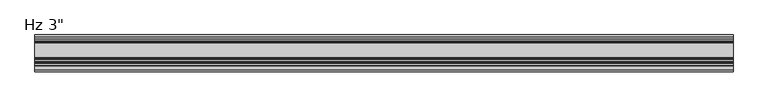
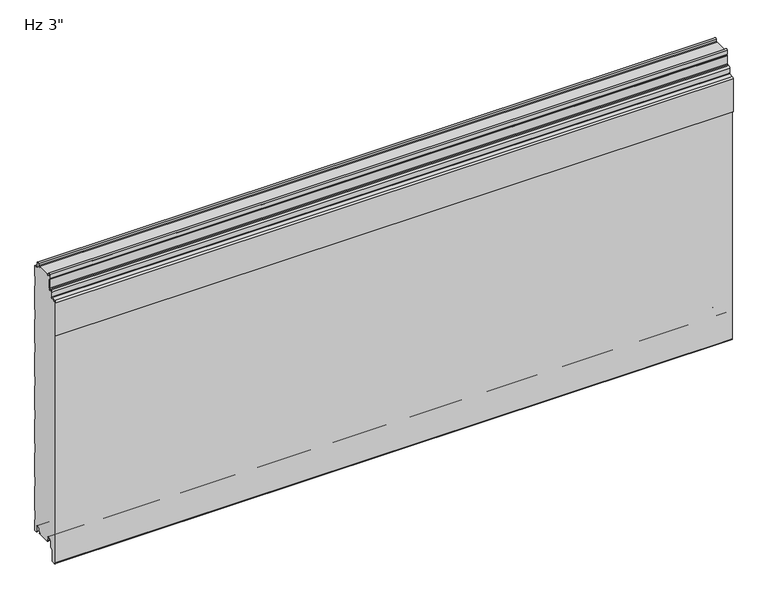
"""IFC4 building model written with IfcOpenShell, lengths in millimetres: plate geometry."""

from ifc_helpers import new_model, si_unit, frame, origin, place, context, project, spatial, polyline, circle_curve, source, transform, mapped, element, save
from ifc_brep_helpers import plane_surface, cylinder_surface, revolved_surface, advanced_brep


def plate_a6e66233(model_context):
    return source(origin(), model_context, "Body", "AdvancedBrep", [
        advanced_brep(
        [(730.0, -55.1008679, 583.4464086), (730.0, -55.1008679, 602.1916086), (730.0, -56.6248679, 602.1916086), (730.0, -56.6248679, 583.4464086), (730.0, -58.1488679, 581.9224086), (730.0, -61.2476679, 581.9224086), (730.0, -64.7020679, 578.4680086), (730.0, -64.7020679, 567.2554512), (730.0, -65.3976552, 566.4963509), (730.0, -74.9416507, 565.3015233), (730.0, -77.724, 562.2651218), (730.0, -77.7360323, 486.6978086), (730.0, -76.2, 486.6978086), (730.0, -76.2, 562.2651218), (730.0, -74.8088254, 563.7833225), (730.0, -65.2648299, 564.9781501), (730.0, -63.1780679, 567.2554512), (730.0, -63.1780679, 578.4680086), (730.0, -61.2476679, 580.3984086), (730.0, -58.1488679, 580.3984086), (-730.0, -55.1008679, 583.4464086), (-730.0, -58.1488679, 580.3984086), (-730.0, -61.2476679, 580.3984086), (-730.0, -63.1780679, 578.4680086), (-730.0, -63.1780679, 567.2554512), (-730.0, -65.2648299, 564.9781501), (-730.0, -74.8088254, 563.7833225), (-730.0, -76.2, 562.2651218), (-730.0, -76.2, 486.6978086), (-730.0, -77.7360323, 486.6978086), (-730.0, -77.7360323, 562.2651218), (-730.0, -74.9416507, 565.3015233), (-730.0, -65.3976552, 566.4963509), (-730.0, -64.7020679, 567.2554512), (-730.0, -64.7020679, 578.4680086), (-730.0, -61.2476679, 581.9224086), (-730.0, -58.1488679, 581.9224086), (-730.0, -56.6248679, 583.4464086), (-730.0, -56.6248679, 602.1916086), (-730.0, -55.1008679, 602.1916086)],
        [
            (0, 1),
            (1, 2),
            (2, 3),
            (3, 4, circle_curve(frame((730.0, -58.1488679, 583.4464086), z_axis=(-1.0, 0.0, 0.0), x_axis=(0.0, 1.0, 0.0)), 1.524)),
            (4, 5),
            (5, 6, circle_curve(frame((730.0, -61.2476679, 578.4680086), z_axis=(1.0, 0.0, 0.0), x_axis=(0.0, 1.0, 0.0)), 3.4544)),
            (6, 7),
            (7, 8, circle_curve(frame((730.0, -65.4640679, 567.2554512), z_axis=(-1.0, 0.0, 0.0), x_axis=(0.0, 1.0, 0.0)), 0.762)),
            (8, 9),
            (9, 10, circle_curve(frame((730.0, -74.676, 562.2651218), z_axis=(1.0, 0.0, 0.0), x_axis=(0.0, 1.0, 0.0)), 3.048)),
            (10, 11),
            (11, 12),
            (12, 13),
            (13, 14, circle_curve(frame((730.0, -74.676, 562.2651218), z_axis=(-1.0, 0.0, 0.0), x_axis=(0.0, 1.0, 0.0)), 1.524)),
            (14, 15),
            (15, 16, circle_curve(frame((730.0, -65.4640679, 567.2554512), z_axis=(1.0, 0.0, 0.0), x_axis=(0.0, 1.0, 0.0)), 2.286)),
            (16, 17),
            (17, 18, circle_curve(frame((730.0, -61.2476679, 578.4680086), z_axis=(-1.0, 0.0, 0.0), x_axis=(0.0, 1.0, 0.0)), 1.9304)),
            (18, 19),
            (19, 0, circle_curve(frame((730.0, -58.1488679, 583.4464086), z_axis=(1.0, 0.0, 0.0), x_axis=(0.0, 1.0, 0.0)), 3.048)),
            (20, 21, circle_curve(frame((-730.0, -58.1488679, 583.4464086), z_axis=(-1.0, 0.0, 0.0), x_axis=(0.0, 1.0, 0.0)), 3.048)),
            (21, 22),
            (22, 23, circle_curve(frame((-730.0, -61.2476679, 578.4680086), z_axis=(1.0, 0.0, 0.0), x_axis=(0.0, 1.0, 0.0)), 1.9304)),
            (23, 24),
            (24, 25, circle_curve(frame((-730.0, -65.4640679, 567.2554512), z_axis=(-1.0, 0.0, 0.0), x_axis=(0.0, 1.0, 0.0)), 2.286)),
            (25, 26),
            (26, 27, circle_curve(frame((-730.0, -74.676, 562.2651218), z_axis=(1.0, 0.0, 0.0), x_axis=(0.0, 1.0, 0.0)), 1.524)),
            (27, 28),
            (28, 29),
            (29, 30),
            (30, 31, circle_curve(frame((-730.0, -74.676, 562.2651218), z_axis=(-1.0, 0.0, 0.0), x_axis=(0.0, 1.0, 0.0)), 3.048)),
            (31, 32),
            (32, 33, circle_curve(frame((-730.0, -65.4640679, 567.2554512), z_axis=(1.0, 0.0, 0.0), x_axis=(0.0, 1.0, 0.0)), 0.762)),
            (33, 34),
            (34, 35, circle_curve(frame((-730.0, -61.2476679, 578.4680086), z_axis=(-1.0, 0.0, 0.0), x_axis=(0.0, 1.0, 0.0)), 3.4544)),
            (35, 36),
            (36, 37, circle_curve(frame((-730.0, -58.1488679, 583.4464086), z_axis=(1.0, 0.0, 0.0), x_axis=(0.0, 1.0, 0.0)), 1.524)),
            (37, 38),
            (38, 39),
            (39, 20),
            (2, 38),
            (37, 3),
            (15, 25),
            (24, 16),
            (7, 33),
            (32, 8),
            (5, 35),
            (34, 6),
            (1, 39),
            (36, 4),
            (9, 31),
            (30, 10),
            (13, 27),
            (26, 14),
            (0, 20),
            (12, 28),
            (29, 11),
            (23, 17),
            (18, 22),
            (21, 19),
        ],
        [
            plane_surface(frame((730.0, -76.2, 602.1916086), z_axis=(1.0, 0.0, 0.0), x_axis=(0.0, 0.0, -1.0))),
            plane_surface(frame((-730.0, -76.2, 602.1916086), z_axis=(-1.0, 0.0, 0.0), x_axis=(0.0, 0.0, -1.0))),
            plane_surface(frame((730.0, -56.6248679, 583.4464086), z_axis=(0.0, -1.0, 0.0), x_axis=(-1.0, 0.0, 0.0))),
            cylinder_surface(frame((730.0, -65.4640679, 567.2554512), z_axis=(1.0, 0.0, 0.0), x_axis=(0.0, 1.0, 0.0)), 2.286),
            revolved_surface(polyline([(-730.0, -64.7020679, 567.2554512), (730.0, -64.7020679, 567.2554512)]), (730.0, -65.4640679, 567.2554512), (-1.0, 0.0, 0.0)),
            cylinder_surface(frame((730.0, -61.2476679, 578.4680086), z_axis=(1.0, 0.0, 0.0), x_axis=(0.0, 1.0, 0.0)), 3.4544),
            plane_surface(frame((730.0, -56.6248679, 602.1916086), z_axis=(0.0, 0.0, 1.0), x_axis=(-1.0, 0.0, 0.0))),
            revolved_surface(polyline([(-730.0, -56.6248679, 583.4464086), (730.0, -56.6248679, 583.4464086)]), (730.0, -58.1488679, 583.4464086), (-1.0, 0.0, 0.0)),
            cylinder_surface(frame((730.0, -74.676, 562.2651218), z_axis=(1.0, 0.0, 0.0), x_axis=(0.0, 1.0, 0.0)), 3.048),
            revolved_surface(polyline([(-730.0, -73.152, 562.2651218), (730.0, -73.152, 562.2651218)]), (730.0, -74.676, 562.2651218), (-1.0, 0.0, 0.0)),
            plane_surface(frame((730.0, -55.1008679, 602.1916086), z_axis=(0.0, 1.0, 0.0), x_axis=(-1.0, 0.0, 0.0))),
            plane_surface(frame((730.0, -65.2648299, 564.9781501), z_axis=(0.0, 0.12422187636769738, -0.9922544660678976), x_axis=(-1.0, 0.0, 0.0))),
            plane_surface(frame((730.0, -76.2, 562.2651218), z_axis=(0.0, 1.0, 0.0), x_axis=(-1.0, 0.0, 0.0))),
            plane_surface(frame((730.0, -74.9416507, 565.3015233), z_axis=(0.0, -0.12422187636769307, 0.9922544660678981), x_axis=(-1.0, 0.0, 0.0))),
            plane_surface(frame((730.0, -61.2476679, 581.9224086), z_axis=(0.0, 0.0, 1.0), x_axis=(-1.0, 0.0, 0.0))),
            plane_surface(frame((730.0, -77.7360323, 486.6978086), z_axis=(0.0, -1.0, 0.0), x_axis=(-1.0, 0.0, 0.0))),
            plane_surface(frame((730.0, -76.2, 486.6978086), z_axis=(0.0, 0.0, -1.0), x_axis=(-1.0, 0.0, 0.0))),
            plane_surface(frame((730.0, -63.1780679, 578.4680086), z_axis=(0.0, 1.0, 0.0), x_axis=(-1.0, 0.0, 0.0))),
            plane_surface(frame((730.0, -58.1488679, 580.3984086), z_axis=(0.0, 0.0, -1.0), x_axis=(-1.0, 0.0, 0.0))),
            plane_surface(frame((730.0, -64.7020679, 567.2554512), z_axis=(0.0, -1.0, 0.0), x_axis=(-1.0, 0.0, 0.0))),
            revolved_surface(polyline([(-730.0, -59.317267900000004, 578.4680086), (730.0, -59.317267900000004, 578.4680086)]), (730.0, -61.2476679, 578.4680086), (-1.0, 0.0, 0.0)),
            cylinder_surface(frame((730.0, -58.1488679, 583.4464086), z_axis=(1.0, 0.0, 0.0), x_axis=(0.0, 1.0, 0.0)), 3.048),
        ],
        [
            (0, [[1, 2, 3, 4, 5, 6, 7, 8, 9, 10, 11, 12, 13, 14, 15, 16, 17, 18, 19, 20]]),
            (1, [[21, 22, 23, 24, 25, 26, 27, 28, 29, 30, 31, 32, 33, 34, 35, 36, 37, 38, 39, 40]]),
            (2, [[41, -38, 42, -3]]),
            (3, [[43, -25, 44, -16]]),
            (4, [[45, -33, 46, -8]]),
            (5, [[47, -35, 48, -6]]),
            (6, [[49, -39, -41, -2]]),
            (7, [[-42, -37, 50, -4]]),
            (8, [[51, -31, 52, -10]]),
            (9, [[53, -27, 54, -14]]),
            (10, [[55, -40, -49, -1]]),
            (11, [[-54, -26, -43, -15]]),
            (12, [[56, -28, -53, -13]]),
            (13, [[-46, -32, -51, -9]]),
            (14, [[-50, -36, -47, -5]]),
            (15, [[-52, -30, 57, -11]]),
            (16, [[-57, -29, -56, -12]]),
            (17, [[-44, -24, 58, -17]]),
            (18, [[59, -22, 60, -19]]),
            (19, [[-48, -34, -45, -7]]),
            (20, [[-58, -23, -59, -18]]),
            (21, [[-60, -21, -55, -20]]),
        ],
    ),
        advanced_brep(
        [(-730.0, -47.870875, 1.0316999), (-730.0, -46.7014003, 2.2328239), (-730.0, -46.7014003, 5.9912173), (-730.0, -48.0998791, 5.9912173), (-730.0, -48.0998791, 8.6903283), (-730.0, -51.4498744, 12.0403236), (-730.0, -55.8498656, 12.0403236), (-730.0, -59.1998609, 8.6903283), (-730.0, -59.1998609, -3.1205608), (-730.0, -59.6977778, -4.3226385), (-730.0, -65.1998489, -9.8247096), (-730.0, -65.1998489, -31.9198392), (-730.0, -67.4184509, -34.5765709), (-730.0, -72.4002718, -35.0125699), (-730.0, -75.1945967, -32.4521176), (-730.0, -75.2, 561.115622), (-730.0, -73.4149259, 563.0669057), (-730.0, -64.9539491, 563.821161), (-730.0, -62.1906462, 566.9653654), (-730.0, -62.1906462, 577.0583308), (-730.0, -61.2392375, 578.0097394), (-730.0, -58.0955822, 578.0097394), (-730.0, -54.0961292, 582.0091924), (-730.0, -54.0961292, 603.1895515), (-730.0, -56.076977, 604.3334028), (-730.0, -55.7217167, 613.306811), (-730.0, -51.5211391, 613.3037148), (-730.0, -51.2767242, 609.2977997), (-730.0, -49.4819116, 607.5686884), (-730.0, -46.697365, 607.5686884), (-730.0, -46.697365, 608.5686884), (-730.0, -48.284865, 608.5686884), (-730.0, -47.2535534, 609.6), (-730.0, -18.6184525, 609.6), (-730.0, -17.5871409, 608.5686884), (-730.0, -19.0015288, 608.5686884), (-730.0, -19.0015288, 607.5686884), (-730.0, -16.6743462, 607.5686884), (-730.0, -14.9256429, 609.2513685), (-730.0, -14.7059822, 613.3921924), (-730.0, -10.4046442, 613.3931719), (-730.0, -9.9974365, 604.9016499), (-730.0, -6.0026007, 601.0787013), (-730.0, -1.0, 601.0787013), (-730.0, -1.0, 576.5794011), (-730.0, -2.2002307, 575.1937682), (-730.0, -2.2002307, 555.8186019), (-730.0, -1.0, 554.4329689), (-730.0, -1.0, 500.3795535), (-730.0, -2.2002307, 498.9939206), (-730.0, -2.2002307, 479.6187543), (-730.0, -1.0, 478.2331213), (-730.0, -1.0, 424.1797059), (-730.0, -2.2002307, 422.794073), (-730.0, -2.2002307, 403.4189067), (-730.0, -1.0, 402.0332737), (-730.0, -1.0, 347.9798583), (-730.0, -2.2002307, 346.5942254), (-730.0, -2.2002307, 327.2190591), (-730.0, -1.0, 325.8334261), (-730.0, -1.0, 271.7800107), (-730.0, -2.2002307, 270.3943778), (-730.0, -2.2002307, 251.0192115), (-730.0, -1.0, 249.6335785), (-730.0, -1.0, 195.5801631), (-730.0, -2.2002307, 194.1945302), (-730.0, -2.2002307, 174.8193639), (-730.0, -1.0, 173.4337309), (-730.0, -1.0, 119.3803155), (-730.0, -2.2002307, 117.9946826), (-730.0, -2.2002307, 98.6195163), (-730.0, -1.0, 97.2338833), (-730.0, -1.0, 43.1804679), (-730.0, -2.2002307, 41.794835), (-730.0, -2.2002307, 22.4196687), (-730.0, -0.9999916, 21.034026), (-730.0, -0.9999916, -3.4662506), (-730.0, -5.2315389, -3.4662506), (-730.0, -7.0015331, -1.6962564), (-730.0, -7.0015331, 8.7237222), (-730.0, -10.301529, 12.023718), (-730.0, -14.7015202, 12.023718), (-730.0, -18.0015159, 8.7237223), (-730.0, -18.0015159, 6.0315125), (-730.0, -19.0015105, 6.0315125), (-730.0, -19.0015105, 2.0313089), (-730.0, -18.0015192, 1.0313117), (-730.0, -19.0328308, 0.0), (-730.0, -46.8391751, 0.0), (730.0, -47.870875, 1.0316999), (730.0, -46.8391751, 0.0), (730.0, -19.0328308, 0.0), (730.0, -18.0015192, 1.0313117), (730.0, -19.0015105, 2.0313089), (730.0, -19.0015105, 6.0315125), (730.0, -18.0015159, 6.0315125), (730.0, -18.0015159, 8.7237223), (730.0, -14.7015202, 12.023718), (730.0, -10.301529, 12.023718), (730.0, -7.0015331, 8.7237222), (730.0, -7.0015331, -1.6962564), (730.0, -5.2315389, -3.4662506), (730.0, -0.9999916, -3.4662506), (730.0, -0.9999916, 21.034026), (730.0, -2.2002307, 22.4196687), (730.0, -2.2002307, 41.794835), (730.0, -1.0, 43.1804679), (730.0, -1.0, 97.2338833), (730.0, -2.2002307, 98.6195163), (730.0, -2.2002307, 117.9946826), (730.0, -1.0, 119.3803155), (730.0, -1.0, 173.4337309), (730.0, -2.2002307, 174.8193639), (730.0, -2.2002307, 194.1945302), (730.0, -1.0, 195.5801631), (730.0, -1.0, 249.6335785), (730.0, -2.2002307, 251.0192115), (730.0, -2.2002307, 270.3943778), (730.0, -1.0, 271.7800107), (730.0, -1.0, 325.8334261), (730.0, -2.2002307, 327.2190591), (730.0, -2.2002307, 346.5942254), (730.0, -1.0, 347.9798583), (730.0, -1.0, 402.0332737), (730.0, -2.2002307, 403.4189067), (730.0, -2.2002307, 422.794073), (730.0, -1.0, 424.1797059), (730.0, -1.0, 478.2331213), (730.0, -2.2002307, 479.6187543), (730.0, -2.2002307, 498.9939206), (730.0, -1.0, 500.3795535), (730.0, -1.0, 554.4329689), (730.0, -2.2002307, 555.8186019), (730.0, -2.2002307, 575.1937682), (730.0, -1.0, 576.5794011), (730.0, -1.0, 601.0787013), (730.0, -6.0026007, 601.0787013), (730.0, -9.9974365, 604.9016499), (730.0, -10.4046442, 613.3931719), (730.0, -14.7059822, 613.3921924), (730.0, -14.9256429, 609.2513685), (730.0, -16.6743462, 607.5686884), (730.0, -19.0015288, 607.5686884), (730.0, -19.0015288, 608.5686884), (730.0, -17.5871409, 608.5686884), (730.0, -18.6184525, 609.6), (730.0, -47.2535534, 609.6), (730.0, -48.284865, 608.5686884), (730.0, -46.697365, 608.5686884), (730.0, -46.697365, 607.5686884), (730.0, -49.4819116, 607.5686884), (730.0, -51.2767242, 609.2977997), (730.0, -51.5211391, 613.3037148), (730.0, -55.7217167, 613.306811), (730.0, -56.076977, 604.3334028), (730.0, -54.0961292, 603.1895515), (730.0, -54.0961292, 582.0091924), (730.0, -58.0955822, 578.0097394), (730.0, -61.2392375, 578.0097394), (730.0, -62.1906462, 577.0583308), (730.0, -62.1906462, 566.9653654), (730.0, -64.9539491, 563.821161), (730.0, -73.4149259, 563.0669057), (730.0, -75.2, 561.115622), (730.0, -75.2, -32.4521176), (730.0, -72.4002718, -35.0125699), (730.0, -67.4184509, -34.5765709), (730.0, -65.1998489, -31.9198392), (730.0, -65.1998489, -9.8247096), (730.0, -59.6977778, -4.3226385), (730.0, -59.1998609, -3.1205608), (730.0, -59.1998609, 8.6903283), (730.0, -55.8498656, 12.0403236), (730.0, -51.4498744, 12.0403236), (730.0, -48.0998791, 8.6903283), (730.0, -48.0998791, 5.9912173), (730.0, -46.7014003, 5.9912173), (730.0, -46.7014003, 2.2328239)],
        [
            (0, 1, circle_curve(frame((-730.0, -47.9013969, 2.2313092), z_axis=(1.0, 0.0, 0.0), x_axis=(0.0, 0.0, -1.0)), 1.1999976)),
            (1, 2),
            (2, 3),
            (3, 4),
            (4, 5, circle_curve(frame((-730.0, -51.4498744, 8.6903283), z_axis=(1.0, 0.0, 0.0), x_axis=(0.0, 0.0, -1.0)), 3.3499953)),
            (5, 6),
            (6, 7, circle_curve(frame((-730.0, -55.8498656, 8.6903283), z_axis=(1.0, 0.0, 0.0), x_axis=(0.0, 0.0, -1.0)), 3.3499953)),
            (7, 8),
            (8, 9, circle_curve(frame((-730.0, -60.8998555, -3.1205608), z_axis=(-1.0, 0.0, 0.0), x_axis=(0.0, 0.0, -1.0)), 1.6999946)),
            (9, 10),
            (10, 11),
            (11, 12, circle_curve(frame((-730.0, -67.8998415, -31.9198392), z_axis=(-1.0, 0.0, 0.0), x_axis=(0.0, 0.0, -1.0)), 2.6999926)),
            (12, 13),
            (13, 14, circle_curve(frame((-730.0, -72.6243575, -32.4521176), z_axis=(-1.0, 0.0, 0.0), x_axis=(0.0, 0.0, -1.0)), 2.5702393)),
            (14, 15),
            (15, 16, circle_curve(frame((-730.0, -73.2409784, 561.115622), z_axis=(-1.0, 0.0, 0.0), x_axis=(0.0, 0.0, -1.0)), 1.9590216)),
            (16, 17),
            (17, 18, circle_curve(frame((-730.0, -65.2180321, 566.8396267), z_axis=(1.0, 0.0, 0.0), x_axis=(0.0, 0.0, -1.0)), 3.0299959)),
            (18, 19),
            (19, 20, circle_curve(frame((-730.0, -61.2392375, 577.0583308), z_axis=(-1.0, 0.0, 0.0), x_axis=(0.0, 0.0, -1.0)), 0.9514087)),
            (20, 21),
            (21, 22, circle_curve(frame((-730.0, -58.0955822, 582.0091924), z_axis=(1.0, 0.0, 0.0), x_axis=(0.0, 0.0, -1.0)), 3.9994529)),
            (22, 23),
            (23, 24),
            (24, 25),
            (25, 26, circle_curve(frame((-730.0, -53.621488, 613.2236622), z_axis=(-1.0, 0.0, 0.0), x_axis=(0.0, 0.0, -1.0)), 2.1018739)),
            (26, 27),
            (27, 28, circle_curve(frame((-730.0, -49.4383506, 609.4099653), z_axis=(1.0, 0.0, 0.0), x_axis=(0.0, 0.0, -1.0)), 1.8417922)),
            (28, 29),
            (29, 30),
            (30, 31),
            (31, 32),
            (32, 33),
            (33, 34),
            (34, 35),
            (35, 36),
            (36, 37),
            (37, 38, circle_curve(frame((-730.0, -16.6743462, 609.3186869), z_axis=(1.0, 0.0, 0.0), x_axis=(0.0, 0.0, 1.0)), 1.7499985)),
            (38, 39),
            (39, 40, circle_curve(frame((-730.0, -12.5552871, 613.2781032), z_axis=(-1.0, 0.0, 0.0), x_axis=(0.0, 0.0, 1.0)), 2.153719)),
            (40, 41),
            (41, 42, circle_curve(frame((-730.0, -5.9867338, 605.0939817), z_axis=(1.0, 0.0, 0.0), x_axis=(0.0, 0.0, 1.0)), 4.0153117)),
            (42, 43),
            (43, 44),
            (44, 45),
            (45, 46),
            (46, 47),
            (47, 48),
            (48, 49),
            (49, 50),
            (50, 51),
            (51, 52),
            (52, 53),
            (53, 54),
            (54, 55),
            (55, 56),
            (56, 57),
            (57, 58),
            (58, 59),
            (59, 60),
            (60, 61),
            (61, 62),
            (62, 63),
            (63, 64),
            (64, 65),
            (65, 66),
            (66, 67),
            (67, 68),
            (68, 69),
            (69, 70),
            (70, 71),
            (71, 72),
            (72, 73),
            (73, 74),
            (74, 75),
            (75, 76),
            (76, 77),
            (77, 78, circle_curve(frame((-730.0, -5.2315389, -1.6962564), z_axis=(-1.0, 0.0, 0.0), x_axis=(0.0, 0.0, 1.0)), 1.7699942)),
            (78, 79),
            (79, 80, circle_curve(frame((-730.0, -10.301529, 8.7237222), z_axis=(1.0, 0.0, 0.0), x_axis=(0.0, 0.0, 1.0)), 3.2999959)),
            (80, 81),
            (81, 82, circle_curve(frame((-730.0, -14.7015202, 8.7237223), z_axis=(1.0, 0.0, 0.0), x_axis=(0.0, 0.0, 1.0)), 3.2999957)),
            (82, 83),
            (83, 84),
            (84, 85),
            (85, 86, circle_curve(frame((-730.0, -18.0015133, 2.0313089), z_axis=(1.0, 0.0, 0.0), x_axis=(0.0, 0.0, 1.0)), 0.9999972)),
            (86, 87),
            (87, 88),
            (88, 0),
            (89, 90),
            (90, 91),
            (91, 92),
            (92, 93, circle_curve(frame((730.0, -18.0015133, 2.0313089), z_axis=(-1.0, 0.0, 0.0), x_axis=(0.0, 0.0, 1.0)), 0.9999972)),
            (93, 94),
            (94, 95),
            (95, 96),
            (96, 97, circle_curve(frame((730.0, -14.7015202, 8.7237223), z_axis=(-1.0, 0.0, 0.0), x_axis=(0.0, 0.0, 1.0)), 3.2999957)),
            (97, 98),
            (98, 99, circle_curve(frame((730.0, -10.301529, 8.7237222), z_axis=(-1.0, 0.0, 0.0), x_axis=(0.0, 0.0, 1.0)), 3.2999959)),
            (99, 100),
            (100, 101, circle_curve(frame((730.0, -5.2315389, -1.6962564), z_axis=(1.0, 0.0, 0.0), x_axis=(0.0, 0.0, 1.0)), 1.7699942)),
            (101, 102),
            (102, 103),
            (103, 104),
            (104, 105),
            (105, 106),
            (106, 107),
            (107, 108),
            (108, 109),
            (109, 110),
            (110, 111),
            (111, 112),
            (112, 113),
            (113, 114),
            (114, 115),
            (115, 116),
            (116, 117),
            (117, 118),
            (118, 119),
            (119, 120),
            (120, 121),
            (121, 122),
            (122, 123),
            (123, 124),
            (124, 125),
            (125, 126),
            (126, 127),
            (127, 128),
            (128, 129),
            (129, 130),
            (130, 131),
            (131, 132),
            (132, 133),
            (133, 134),
            (134, 135),
            (135, 136),
            (136, 137, circle_curve(frame((730.0, -5.9867338, 605.0939817), z_axis=(-1.0, 0.0, 0.0), x_axis=(0.0, 0.0, 1.0)), 4.0153117)),
            (137, 138),
            (138, 139, circle_curve(frame((730.0, -12.5552871, 613.2781032), z_axis=(1.0, 0.0, 0.0), x_axis=(0.0, 0.0, 1.0)), 2.153719)),
            (139, 140),
            (140, 141, circle_curve(frame((730.0, -16.6743462, 609.3186869), z_axis=(-1.0, 0.0, 0.0), x_axis=(0.0, 0.0, 1.0)), 1.7499985)),
            (141, 142),
            (142, 143),
            (143, 144),
            (144, 145),
            (145, 146),
            (146, 147),
            (147, 148),
            (148, 149),
            (149, 150),
            (150, 151, circle_curve(frame((730.0, -49.4383506, 609.4099653), z_axis=(-1.0, 0.0, 0.0), x_axis=(0.0, 0.0, -1.0)), 1.8417922)),
            (151, 152),
            (152, 153, circle_curve(frame((730.0, -53.621488, 613.2236622), z_axis=(1.0, 0.0, 0.0), x_axis=(0.0, 0.0, -1.0)), 2.1018739)),
            (153, 154),
            (154, 155),
            (155, 156),
            (156, 157, circle_curve(frame((730.0, -58.0955822, 582.0091924), z_axis=(-1.0, 0.0, 0.0), x_axis=(0.0, 0.0, -1.0)), 3.9994529)),
            (157, 158),
            (158, 159, circle_curve(frame((730.0, -61.2392375, 577.0583308), z_axis=(1.0, 0.0, 0.0), x_axis=(0.0, 0.0, -1.0)), 0.9514087)),
            (159, 160),
            (160, 161, circle_curve(frame((730.0, -65.2180321, 566.8396267), z_axis=(-1.0, 0.0, 0.0), x_axis=(0.0, 0.0, -1.0)), 3.0299959)),
            (161, 162),
            (162, 163, circle_curve(frame((730.0, -73.2409784, 561.115622), z_axis=(1.0, 0.0, 0.0), x_axis=(0.0, 0.0, -1.0)), 1.9590216)),
            (163, 164),
            (164, 165, circle_curve(frame((730.0, -72.6243575, -32.4521176), z_axis=(1.0, 0.0, 0.0), x_axis=(0.0, 0.0, -1.0)), 2.5702393)),
            (165, 166),
            (166, 167, circle_curve(frame((730.0, -67.8998415, -31.9198392), z_axis=(1.0, 0.0, 0.0), x_axis=(0.0, 0.0, -1.0)), 2.6999926)),
            (167, 168),
            (168, 169),
            (169, 170, circle_curve(frame((730.0, -60.8998555, -3.1205608), z_axis=(1.0, 0.0, 0.0), x_axis=(0.0, 0.0, -1.0)), 1.6999946)),
            (170, 171),
            (171, 172, circle_curve(frame((730.0, -55.8498656, 8.6903283), z_axis=(-1.0, 0.0, 0.0), x_axis=(0.0, 0.0, -1.0)), 3.3499953)),
            (172, 173),
            (173, 174, circle_curve(frame((730.0, -51.4498744, 8.6903283), z_axis=(-1.0, 0.0, 0.0), x_axis=(0.0, 0.0, -1.0)), 3.3499953)),
            (174, 175),
            (175, 176),
            (176, 177),
            (177, 89, circle_curve(frame((730.0, -47.9013969, 2.2313092), z_axis=(-1.0, 0.0, 0.0), x_axis=(0.0, 0.0, -1.0)), 1.1999976)),
            (88, 90),
            (89, 0),
            (87, 91),
            (32, 146),
            (145, 33),
            (31, 147),
            (30, 148),
            (29, 149),
            (28, 150),
            (27, 151),
            (26, 152),
            (25, 153),
            (24, 154),
            (23, 155),
            (22, 156),
            (21, 157),
            (20, 158),
            (19, 159),
            (18, 160),
            (17, 161),
            (16, 162),
            (15, 163),
            (14, 164),
            (13, 165),
            (12, 166),
            (11, 167),
            (10, 168),
            (9, 169),
            (8, 170),
            (7, 171),
            (6, 172),
            (5, 173),
            (4, 174),
            (3, 175),
            (2, 176),
            (1, 177),
            (86, 92),
            (85, 93),
            (84, 94),
            (83, 95),
            (82, 96),
            (81, 97),
            (80, 98),
            (79, 99),
            (78, 100),
            (77, 101),
            (76, 102),
            (41, 137),
            (136, 42),
            (40, 138),
            (39, 139),
            (38, 140),
            (37, 141),
            (36, 142),
            (35, 143),
            (34, 144),
            (74, 104),
            (103, 75),
            (73, 105),
            (72, 106),
            (71, 107),
            (70, 108),
            (69, 109),
            (68, 110),
            (67, 111),
            (66, 112),
            (65, 113),
            (64, 114),
            (63, 115),
            (62, 116),
            (61, 117),
            (60, 118),
            (59, 119),
            (58, 120),
            (57, 121),
            (56, 122),
            (55, 123),
            (54, 124),
            (53, 125),
            (52, 126),
            (51, 127),
            (50, 128),
            (49, 129),
            (48, 130),
            (47, 131),
            (46, 132),
            (45, 133),
            (44, 134),
            (43, 135),
        ],
        [
            plane_surface(frame((-730.0, -75.2, 304.8), z_axis=(-1.0, 0.0, 0.0), x_axis=(0.0, -1.0, 0.0))),
            plane_surface(frame((730.0, -75.2, 304.8), z_axis=(1.0, 0.0, 0.0), x_axis=(0.0, -1.0, 0.0))),
            plane_surface(frame((-730.0, -47.870875, 1.0316999), z_axis=(0.0, -0.7071067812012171, -0.707106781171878), x_axis=(1.0, 0.0, 0.0))),
            plane_surface(frame((-730.0, -46.8391751, 0.0), z_axis=(0.0, 0.0, -1.0), x_axis=(1.0, 0.0, 0.0))),
            plane_surface(frame((-730.0, -45.8391751, 609.6), z_axis=(0.0, 0.0, 1.0), x_axis=(1.0, 0.0, 0.0))),
            plane_surface(frame((-730.0, -47.2535534, 609.6), z_axis=(0.0, -0.7071067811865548, 0.7071067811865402), x_axis=(1.0, 0.0, 0.0))),
            plane_surface(frame((-730.0, -48.284865, 608.5686884), z_axis=(0.0, 0.0, -1.0), x_axis=(1.0, 0.0, 0.0))),
            plane_surface(frame((-730.0, -46.697365, 608.5686884), z_axis=(0.0, -1.0, 0.0), x_axis=(1.0, 0.0, 0.0))),
            plane_surface(frame((-730.0, -46.697365, 607.5686884), z_axis=(0.0, 0.0, 1.0), x_axis=(1.0, 0.0, 0.0))),
            revolved_surface(polyline([(730.0, -49.4383506, 607.5681731), (-730.0, -49.4383506, 607.5681731)]), (-730.0, -49.4383506, 609.4099653), (1.0, 0.0, 0.0)),
            plane_surface(frame((-730.0, -51.2767242, 609.2977997), z_axis=(0.0, 0.9981438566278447, 0.06090025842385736), x_axis=(1.0, 0.0, 0.0))),
            cylinder_surface(frame((-730.0, -53.621488, 613.2236622), z_axis=(-1.0, 0.0, 0.0), x_axis=(0.0, 0.0, -1.0)), 2.1018739),
            plane_surface(frame((-730.0, -55.7217167, 613.306811), z_axis=(0.0, -0.9992172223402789, 0.03955935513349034), x_axis=(1.0, 0.0, 0.0))),
            plane_surface(frame((-730.0, -56.076977, 604.3334028), z_axis=(0.0, -0.5000682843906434, -0.865985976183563), x_axis=(1.0, 0.0, 0.0))),
            plane_surface(frame((-730.0, -54.0961292, 603.1895515), z_axis=(0.0, -1.0, 0.0), x_axis=(1.0, 0.0, 0.0))),
            revolved_surface(polyline([(730.0, -58.0955822, 578.0097394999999), (-730.0, -58.0955822, 578.0097394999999)]), (-730.0, -58.0955822, 582.0091924), (1.0, 0.0, 0.0)),
            plane_surface(frame((-730.0, -58.0955822, 578.0097394), z_axis=(0.0, 0.0, 1.0), x_axis=(1.0, 0.0, 0.0))),
            cylinder_surface(frame((-730.0, -61.2392375, 577.0583308), z_axis=(-1.0, 0.0, 0.0), x_axis=(0.0, 0.0, -1.0)), 0.9514087),
            plane_surface(frame((-730.0, -62.1906462, 577.0583308), z_axis=(0.0, -1.0, 0.0), x_axis=(1.0, 0.0, 0.0))),
            revolved_surface(polyline([(730.0, -65.2180321, 563.8096308), (-730.0, -65.2180321, 563.8096308)]), (-730.0, -65.2180321, 566.8396267), (1.0, 0.0, 0.0)),
            plane_surface(frame((-730.0, -64.9539491, 563.821161), z_axis=(0.0, -0.08879306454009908, 0.9960500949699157), x_axis=(1.0, 0.0, 0.0))),
            cylinder_surface(frame((-730.0, -73.2409784, 561.115622), z_axis=(-1.0, 0.0, 0.0), x_axis=(0.0, 0.0, -1.0)), 1.9590216),
            plane_surface(frame((-730.0, -75.2, 561.115622), z_axis=(0.0, -1.0, 0.0), x_axis=(1.0, 0.0, 0.0))),
            cylinder_surface(frame((-730.0, -72.6243575, -32.4521176), z_axis=(-1.0, 0.0, 0.0), x_axis=(0.0, 0.0, -1.0)), 2.5702393),
            plane_surface(frame((-730.0, -72.4002718, -35.0125699), z_axis=(0.0, 0.08718474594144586, -0.9961921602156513), x_axis=(1.0, 0.0, 0.0))),
            cylinder_surface(frame((-730.0, -67.8998415, -31.9198392), z_axis=(-1.0, 0.0, 0.0), x_axis=(0.0, 0.0, -1.0)), 2.6999926),
            plane_surface(frame((-730.0, -65.1998489, -31.9198392), z_axis=(0.0, 1.0, 0.0), x_axis=(1.0, 0.0, 0.0))),
            plane_surface(frame((-730.0, -65.1998489, -9.8247096), z_axis=(0.0, 0.7071067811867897, -0.7071067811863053), x_axis=(1.0, 0.0, 0.0))),
            cylinder_surface(frame((-730.0, -60.8998555, -3.1205608), z_axis=(-1.0, 0.0, 0.0), x_axis=(0.0, 0.0, -1.0)), 1.6999946),
            plane_surface(frame((-730.0, -59.1998609, -3.1205608), z_axis=(0.0, 1.0, 0.0), x_axis=(1.0, 0.0, 0.0))),
            revolved_surface(polyline([(730.0, -55.8498656, 5.340332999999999), (-730.0, -55.8498656, 5.340332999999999)]), (-730.0, -55.8498656, 8.6903283), (1.0, 0.0, 0.0)),
            plane_surface(frame((-730.0, -55.8498656, 12.0403236), z_axis=(0.0, 0.0, -1.0), x_axis=(1.0, 0.0, 0.0))),
            revolved_surface(polyline([(730.0, -51.4498744, 5.340332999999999), (-730.0, -51.4498744, 5.340332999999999)]), (-730.0, -51.4498744, 8.6903283), (1.0, 0.0, 0.0)),
            plane_surface(frame((-730.0, -48.0998791, 8.6903283), z_axis=(0.0, -1.0, 0.0), x_axis=(1.0, 0.0, 0.0))),
            plane_surface(frame((-730.0, -48.0998791, 5.9912173), z_axis=(0.0, 0.0, -1.0), x_axis=(1.0, 0.0, 0.0))),
            plane_surface(frame((-730.0, -46.7014003, 5.9912173), z_axis=(0.0, -1.0, 0.0), x_axis=(1.0, 0.0, 0.0))),
            revolved_surface(polyline([(730.0, -47.9013969, 1.0313116), (-730.0, -47.9013969, 1.0313116)]), (-730.0, -47.9013969, 2.2313092), (1.0, 0.0, 0.0)),
            plane_surface(frame((-730.0, -19.0328308, 0.0), z_axis=(0.0, 0.7071067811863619, -0.7071067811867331), x_axis=(1.0, 0.0, 0.0))),
            revolved_surface(polyline([(730.0, -18.0015133, 3.0313061), (-730.0, -18.0015133, 3.0313061)]), (-730.0, -18.0015133, 2.0313089), (1.0, 0.0, 0.0)),
            plane_surface(frame((-730.0, -19.0015105, 2.0313089), z_axis=(0.0, 1.0, 0.0), x_axis=(1.0, 0.0, 0.0))),
            plane_surface(frame((-730.0, -19.0015105, 6.0315125), z_axis=(0.0, 0.0, -1.0), x_axis=(1.0, 0.0, 0.0))),
            plane_surface(frame((-730.0, -18.0015159, 6.0315125), z_axis=(0.0, 1.0, 0.0), x_axis=(1.0, 0.0, 0.0))),
            revolved_surface(polyline([(730.0, -14.7015202, 12.023718), (-730.0, -14.7015202, 12.023718)]), (-730.0, -14.7015202, 8.7237223), (1.0, 0.0, 0.0)),
            plane_surface(frame((-730.0, -14.7015202, 12.023718), z_axis=(0.0, 0.0, -1.0), x_axis=(1.0, 0.0, 0.0))),
            revolved_surface(polyline([(730.0, -10.301529, 12.0237181), (-730.0, -10.301529, 12.0237181)]), (-730.0, -10.301529, 8.7237222), (1.0, 0.0, 0.0)),
            plane_surface(frame((-730.0, -7.0015331, 8.7237222), z_axis=(0.0, -1.0, 0.0), x_axis=(1.0, 0.0, 0.0))),
            cylinder_surface(frame((-730.0, -5.2315389, -1.6962564), z_axis=(-1.0, 0.0, 0.0), x_axis=(0.0, 0.0, 1.0)), 1.7699942),
            plane_surface(frame((-730.0, -5.2315389, -3.4662506), z_axis=(0.0, 0.0, -1.0), x_axis=(1.0, 0.0, 0.0))),
            revolved_surface(polyline([(730.0, -5.9867338, 609.1092934), (-730.0, -5.9867338, 609.1092934)]), (-730.0, -5.9867338, 605.0939817), (1.0, 0.0, 0.0)),
            plane_surface(frame((-730.0, -9.9974365, 604.9016499), z_axis=(0.0, 0.9988521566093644, 0.04789957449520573), x_axis=(1.0, 0.0, 0.0))),
            cylinder_surface(frame((-730.0, -12.5552871, 613.2781032), z_axis=(-1.0, 0.0, 0.0), x_axis=(0.0, 0.0, 1.0)), 2.153719),
            plane_surface(frame((-730.0, -14.7059822, 613.3921924), z_axis=(0.0, -0.9985959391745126, 0.05297310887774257), x_axis=(1.0, 0.0, 0.0))),
            revolved_surface(polyline([(730.0, -16.6743462, 611.0686853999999), (-730.0, -16.6743462, 611.0686853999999)]), (-730.0, -16.6743462, 609.3186869), (1.0, 0.0, 0.0)),
            plane_surface(frame((-730.0, -16.6743462, 607.5686884), z_axis=(0.0, 0.0, 1.0), x_axis=(1.0, 0.0, 0.0))),
            plane_surface(frame((-730.0, -19.0015288, 607.5686884), z_axis=(0.0, 1.0, 0.0), x_axis=(1.0, 0.0, 0.0))),
            plane_surface(frame((-730.0, -19.0015288, 608.5686884), z_axis=(0.0, 0.0, -1.0), x_axis=(1.0, 0.0, 0.0))),
            plane_surface(frame((-730.0, -17.5871409, 608.5686884), z_axis=(0.0, 0.7071067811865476, 0.7071067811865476), x_axis=(1.0, 0.0, 0.0))),
            plane_surface(frame((-730.0, -0.9999916, 21.034026), z_axis=(0.0, 0.7558648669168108, 0.6547276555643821), x_axis=(1.0, 0.0, 0.0))),
            plane_surface(frame((-730.0, -0.9999916, -3.4662506), z_axis=(0.0, 1.0, 0.0), x_axis=(1.0, 0.0, 0.0))),
            plane_surface(frame((-730.0, -2.2002307, 22.4196687), z_axis=(0.0, 1.0, 0.0), x_axis=(1.0, 0.0, 0.0))),
            plane_surface(frame((-730.0, -2.2002307, 41.794835), z_axis=(0.0, 0.7558648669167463, -0.6547276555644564), x_axis=(1.0, 0.0, 0.0))),
            plane_surface(frame((-730.0, -1.0, 43.1804679), z_axis=(0.0, 1.0, 0.0), x_axis=(1.0, 0.0, 0.0))),
            plane_surface(frame((-730.0, -1.0, 97.2338833), z_axis=(0.0, 0.7558648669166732, 0.6547276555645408), x_axis=(1.0, 0.0, 0.0))),
            plane_surface(frame((-730.0, -2.2002307, 98.6195163), z_axis=(0.0, 1.0, 0.0), x_axis=(1.0, 0.0, 0.0))),
            plane_surface(frame((-730.0, -2.2002307, 117.9946826), z_axis=(0.0, 0.7558648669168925, -0.6547276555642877), x_axis=(1.0, 0.0, 0.0))),
            plane_surface(frame((-730.0, -1.0, 119.3803155), z_axis=(0.0, 1.0, 0.0), x_axis=(1.0, 0.0, 0.0))),
            plane_surface(frame((-730.0, -1.0, 173.4337309), z_axis=(0.0, 0.7558648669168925, 0.6547276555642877), x_axis=(1.0, 0.0, 0.0))),
            plane_surface(frame((-730.0, -2.2002307, 174.8193639), z_axis=(0.0, 1.0, 0.0), x_axis=(1.0, 0.0, 0.0))),
            plane_surface(frame((-730.0, -2.2002307, 194.1945302), z_axis=(0.0, 0.7558648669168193, -0.6547276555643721), x_axis=(1.0, 0.0, 0.0))),
            plane_surface(frame((-730.0, -1.0, 195.5801631), z_axis=(0.0, 1.0, 0.0), x_axis=(1.0, 0.0, 0.0))),
            plane_surface(frame((-730.0, -1.0, 249.6335785), z_axis=(0.0, 0.7558648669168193, 0.6547276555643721), x_axis=(1.0, 0.0, 0.0))),
            plane_surface(frame((-730.0, -2.2002307, 251.0192115), z_axis=(0.0, 1.0, 0.0), x_axis=(1.0, 0.0, 0.0))),
            plane_surface(frame((-730.0, -2.2002307, 270.3943778), z_axis=(0.0, 0.7558648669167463, -0.6547276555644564), x_axis=(1.0, 0.0, 0.0))),
            plane_surface(frame((-730.0, -1.0, 271.7800107), z_axis=(0.0, 1.0, 0.0), x_axis=(1.0, 0.0, 0.0))),
            plane_surface(frame((-730.0, -1.0, 325.8334261), z_axis=(0.0, 0.7558648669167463, 0.6547276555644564), x_axis=(1.0, 0.0, 0.0))),
            plane_surface(frame((-730.0, -2.2002307, 327.2190591), z_axis=(0.0, 1.0, 0.0), x_axis=(1.0, 0.0, 0.0))),
            plane_surface(frame((-730.0, -2.2002307, 346.5942254), z_axis=(0.0, 0.7558648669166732, -0.6547276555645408), x_axis=(1.0, 0.0, 0.0))),
            plane_surface(frame((-730.0, -1.0, 347.9798583), z_axis=(0.0, 1.0, 0.0), x_axis=(1.0, 0.0, 0.0))),
            plane_surface(frame((-730.0, -1.0, 402.0332737), z_axis=(0.0, 0.7558648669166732, 0.6547276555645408), x_axis=(1.0, 0.0, 0.0))),
            plane_surface(frame((-730.0, -2.2002307, 403.4189067), z_axis=(0.0, 1.0, 0.0), x_axis=(1.0, 0.0, 0.0))),
            plane_surface(frame((-730.0, -2.2002307, 422.794073), z_axis=(0.0, 0.755864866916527, -0.6547276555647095), x_axis=(1.0, 0.0, 0.0))),
            plane_surface(frame((-730.0, -1.0, 424.1797059), z_axis=(0.0, 1.0, 0.0), x_axis=(1.0, 0.0, 0.0))),
            plane_surface(frame((-730.0, -1.0, 478.2331213), z_axis=(0.0, 0.755864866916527, 0.6547276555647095), x_axis=(1.0, 0.0, 0.0))),
            plane_surface(frame((-730.0, -2.2002307, 479.6187543), z_axis=(0.0, 1.0, 0.0), x_axis=(1.0, 0.0, 0.0))),
            plane_surface(frame((-730.0, -2.2002307, 498.9939206), z_axis=(0.0, 0.755864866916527, -0.6547276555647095), x_axis=(1.0, 0.0, 0.0))),
            plane_surface(frame((-730.0, -1.0, 500.3795535), z_axis=(0.0, 1.0, 0.0), x_axis=(1.0, 0.0, 0.0))),
            plane_surface(frame((-730.0, -1.0, 554.4329689), z_axis=(0.0, 0.755864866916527, 0.6547276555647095), x_axis=(1.0, 0.0, 0.0))),
            plane_surface(frame((-730.0, -2.2002307, 555.8186019), z_axis=(0.0, 1.0, 0.0), x_axis=(1.0, 0.0, 0.0))),
            plane_surface(frame((-730.0, -2.2002307, 575.1937682), z_axis=(0.0, 0.7558648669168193, -0.6547276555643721), x_axis=(1.0, 0.0, 0.0))),
            plane_surface(frame((-730.0, -1.0, 576.5794011), z_axis=(0.0, 1.0, 0.0), x_axis=(1.0, 0.0, 0.0))),
            plane_surface(frame((-730.0, -1.0, 601.0787013), z_axis=(0.0, 0.0, 1.0), x_axis=(1.0, 0.0, 0.0))),
        ],
        [
            (0, [[1, 2, 3, 4, 5, 6, 7, 8, 9, 10, 11, 12, 13, 14, 15, 16, 17, 18, 19, 20, 21, 22, 23, 24, 25, 26, 27, 28, 29, 30, 31, 32, 33, 34, 35, 36, 37, 38, 39, 40, 41, 42, 43, 44, 45, 46, 47, 48, 49, 50, 51, 52, 53, 54, 55, 56, 57, 58, 59, 60, 61, 62, 63, 64, 65, 66, 67, 68, 69, 70, 71, 72, 73, 74, 75, 76, 77, 78, 79, 80, 81, 82, 83, 84, 85, 86, 87, 88, 89]]),
            (1, [[90, 91, 92, 93, 94, 95, 96, 97, 98, 99, 100, 101, 102, 103, 104, 105, 106, 107, 108, 109, 110, 111, 112, 113, 114, 115, 116, 117, 118, 119, 120, 121, 122, 123, 124, 125, 126, 127, 128, 129, 130, 131, 132, 133, 134, 135, 136, 137, 138, 139, 140, 141, 142, 143, 144, 145, 146, 147, 148, 149, 150, 151, 152, 153, 154, 155, 156, 157, 158, 159, 160, 161, 162, 163, 164, 165, 166, 167, 168, 169, 170, 171, 172, 173, 174, 175, 176, 177, 178]]),
            (2, [[179, -90, 180, -89]]),
            (3, [[181, -91, -179, -88]]),
            (4, [[182, -146, 183, -33]]),
            (5, [[184, -147, -182, -32]]),
            (6, [[185, -148, -184, -31]]),
            (7, [[186, -149, -185, -30]]),
            (8, [[187, -150, -186, -29]]),
            (9, [[188, -151, -187, -28]]),
            (10, [[189, -152, -188, -27]]),
            (11, [[190, -153, -189, -26]]),
            (12, [[191, -154, -190, -25]]),
            (13, [[192, -155, -191, -24]]),
            (14, [[193, -156, -192, -23]]),
            (15, [[194, -157, -193, -22]]),
            (16, [[195, -158, -194, -21]]),
            (17, [[196, -159, -195, -20]]),
            (18, [[197, -160, -196, -19]]),
            (19, [[198, -161, -197, -18]]),
            (20, [[199, -162, -198, -17]]),
            (21, [[200, -163, -199, -16]]),
            (22, [[201, -164, -200, -15]]),
            (23, [[202, -165, -201, -14]]),
            (24, [[203, -166, -202, -13]]),
            (25, [[204, -167, -203, -12]]),
            (26, [[205, -168, -204, -11]]),
            (27, [[206, -169, -205, -10]]),
            (28, [[207, -170, -206, -9]]),
            (29, [[208, -171, -207, -8]]),
            (30, [[209, -172, -208, -7]]),
            (31, [[210, -173, -209, -6]]),
            (32, [[211, -174, -210, -5]]),
            (33, [[212, -175, -211, -4]]),
            (34, [[213, -176, -212, -3]]),
            (35, [[214, -177, -213, -2]]),
            (36, [[-180, -178, -214, -1]]),
            (37, [[215, -92, -181, -87]]),
            (38, [[216, -93, -215, -86]]),
            (39, [[217, -94, -216, -85]]),
            (40, [[218, -95, -217, -84]]),
            (41, [[219, -96, -218, -83]]),
            (42, [[220, -97, -219, -82]]),
            (43, [[221, -98, -220, -81]]),
            (44, [[222, -99, -221, -80]]),
            (45, [[223, -100, -222, -79]]),
            (46, [[224, -101, -223, -78]]),
            (47, [[225, -102, -224, -77]]),
            (48, [[226, -137, 227, -42]]),
            (49, [[228, -138, -226, -41]]),
            (50, [[229, -139, -228, -40]]),
            (51, [[230, -140, -229, -39]]),
            (52, [[231, -141, -230, -38]]),
            (53, [[232, -142, -231, -37]]),
            (54, [[233, -143, -232, -36]]),
            (55, [[234, -144, -233, -35]]),
            (56, [[-183, -145, -234, -34]]),
            (57, [[235, -104, 236, -75]]),
            (58, [[-236, -103, -225, -76]]),
            (59, [[237, -105, -235, -74]]),
            (60, [[238, -106, -237, -73]]),
            (61, [[239, -107, -238, -72]]),
            (62, [[240, -108, -239, -71]]),
            (63, [[241, -109, -240, -70]]),
            (64, [[242, -110, -241, -69]]),
            (65, [[243, -111, -242, -68]]),
            (66, [[244, -112, -243, -67]]),
            (67, [[245, -113, -244, -66]]),
            (68, [[246, -114, -245, -65]]),
            (69, [[247, -115, -246, -64]]),
            (70, [[248, -116, -247, -63]]),
            (71, [[249, -117, -248, -62]]),
            (72, [[250, -118, -249, -61]]),
            (73, [[251, -119, -250, -60]]),
            (74, [[252, -120, -251, -59]]),
            (75, [[253, -121, -252, -58]]),
            (76, [[254, -122, -253, -57]]),
            (77, [[255, -123, -254, -56]]),
            (78, [[256, -124, -255, -55]]),
            (79, [[257, -125, -256, -54]]),
            (80, [[258, -126, -257, -53]]),
            (81, [[259, -127, -258, -52]]),
            (82, [[260, -128, -259, -51]]),
            (83, [[261, -129, -260, -50]]),
            (84, [[262, -130, -261, -49]]),
            (85, [[263, -131, -262, -48]]),
            (86, [[264, -132, -263, -47]]),
            (87, [[265, -133, -264, -46]]),
            (88, [[266, -134, -265, -45]]),
            (89, [[267, -135, -266, -44]]),
            (90, [[-227, -136, -267, -43]]),
        ],
    ),
    ])


if __name__ == "__main__":
    model = new_model("IFC4")
    model_context = context("Model", 3, world=origin())
    ifc_project = project(units=[si_unit("LENGTHUNIT", "METRE", prefix="MILLI")], contexts=[model_context])
    site = spatial("IfcSite", under=ifc_project)
    building = spatial("IfcBuilding", under=site)
    placement = place(None, origin())
    plate_shape = plate_a6e66233(model_context)
    element("IfcPlate", 1, ObjectType="KIP-24-Karrier-KP-R19-CP-Hz-FL3-8in_SL : Hz 3\"", at=placement, inside=building, context=model_context, shape_type="MappedRepresentation", body=[
        mapped(plate_shape, transform((0.0, 0.0, 0.0), x_axis=(1.0, 0.0, 0.0), y_axis=(0.0, 1.0, 0.0), z_axis=(0.0, 0.0, 1.0))),
    ])
    save(model, "model.ifc")
